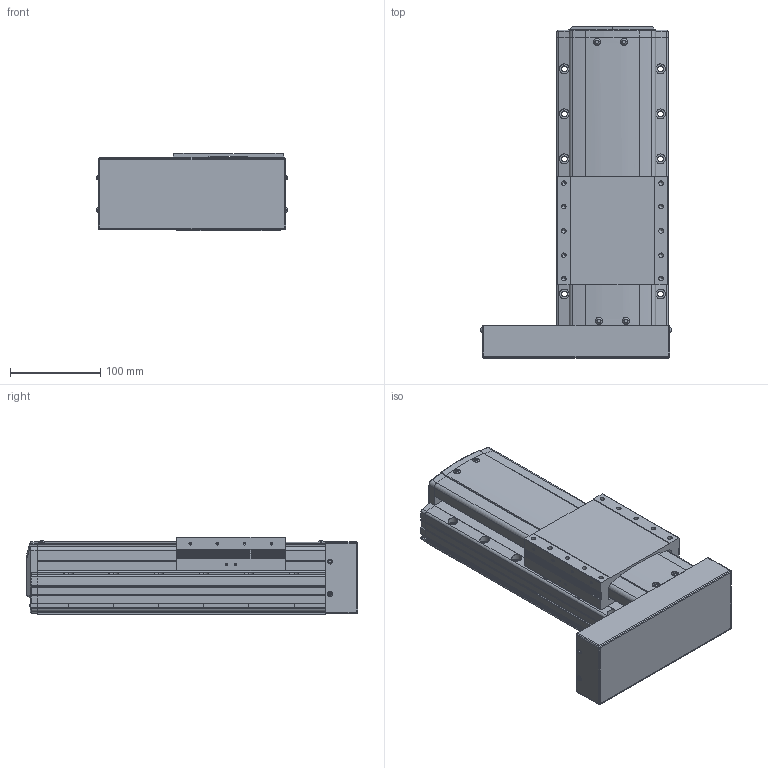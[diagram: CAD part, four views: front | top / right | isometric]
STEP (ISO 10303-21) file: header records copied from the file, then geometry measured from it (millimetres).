
FILE_DESCRIPTION(('STEP AP214'),'1');
FILE_NAME('Z:/Web/3D/PSA125/STP/PSA125-100 (3D)/PSA125ㅁㅁ-100PL.stp','2014-06-20T07:24:29',(' '),(' '),'Spatial InterOp 3D',' ',' ');
FILE_SCHEMA(('automotive_design'));
Length unit declared in the file: millimetre
Products named in the file (23): BTCV - 60A; 스크루 : Round - M3.0 x 6.0; 스크루 : Round - M4.0 x 10.0; RRCV-PA120; SLIDE; BASE; FRCV-PA120-1(기준 뿔 제거); RR1500; 스크루 : Round - M4.0 x 6.0; 너트 : Square - M10.0 x 220.7419
Bounding box: 212.13 x 368.6 x 86 mm (x, y, z)
Volume: 3505420 mm3; surface area: 356667.4 mm2
Topology: 23 solids, 23 shells, 1880 faces, 5037 edges, 3213 vertices
Faces by surface type: plane 1048, cylinder 544, cone 188, sphere 44, bspline 31, torus 25
Entity records: 75484 total; most frequent: CARTESIAN_POINT 12759, DIRECTION 9943, ORIENTED_EDGE 9850, EDGE_CURVE 4925, LINE 3347, VECTOR 3347, AXIS2_PLACEMENT_3D 3298, VERTEX_POINT 3213
